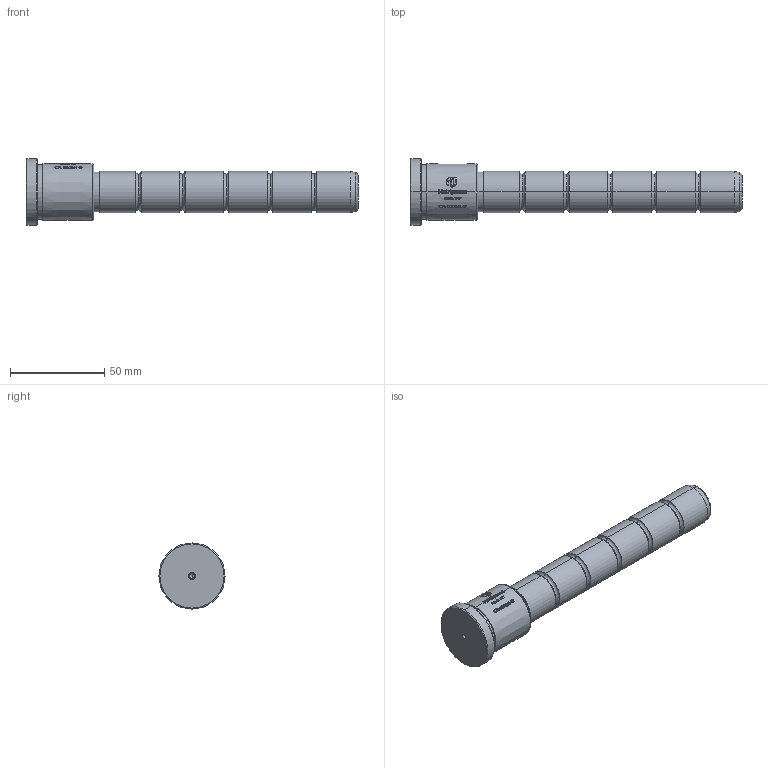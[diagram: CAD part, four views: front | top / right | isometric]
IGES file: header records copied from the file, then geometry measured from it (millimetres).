
Start section: SolidWorks IGES file using analytic representation for surfaces
Global section: file name: C:\Users\User\Downloads\CFM - 09-09\CFM  - Nova\22\CFM22036140.IGS; native system: SolidWorks 2024; preprocessor: SolidWorks 2024; author: User; date: 260910.162531; units: millimetre
Bounding box: 176 x 35 x 35 mm (x, y, z)
Surface area: 15610.7 mm2 (no closed solid volume)
Topology: 0 solids, 0 shells, 519 faces, 5126 edges, 5122 vertices
Faces by surface type: bspline 415, revolution 104
